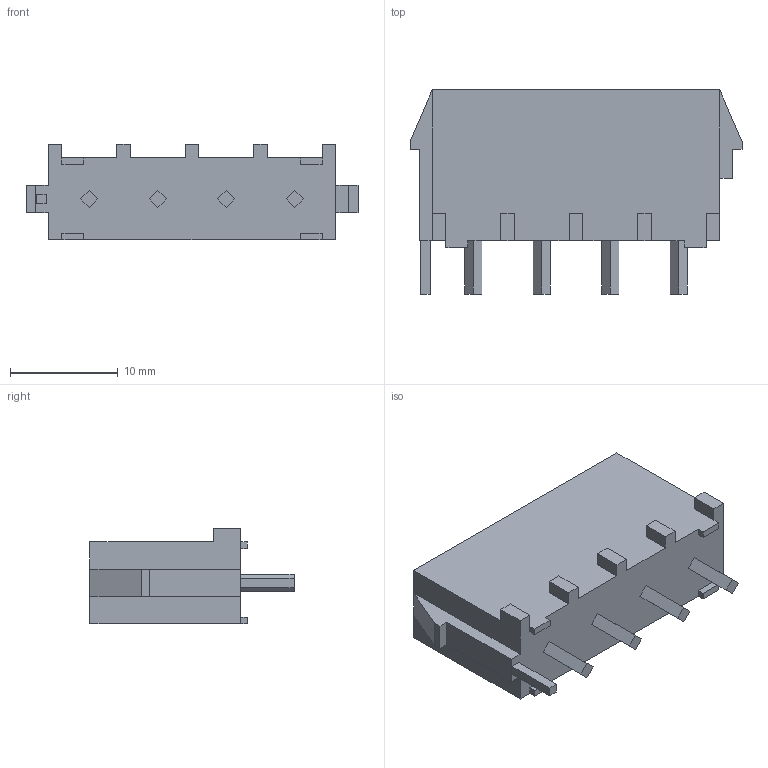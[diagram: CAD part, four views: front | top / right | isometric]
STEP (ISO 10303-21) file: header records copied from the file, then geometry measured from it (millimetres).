
FILE_DESCRIPTION((''),'2;1');
FILE_NAME('367590143','2014-12-09T',('me'),(''),'PRO/ENGINEER BY PARAMETRIC TECHNOLOGY CORPORATION, 2011490','PRO/ENGINEER BY PARAMETRIC TECHNOLOGY CORPORATION, 2011490','');
FILE_SCHEMA(('CONFIG_CONTROL_DESIGN'));
Length unit declared in the file: inch
Products named in the file (1): 367590143
Bounding box: 30.78 x 18.92 x 8.89 mm (x, y, z)
Volume: 2494.1 mm3; surface area: 2614.7 mm2
Topology: 1 solids, 1 shells, 147 faces, 404 edges, 277 vertices
Faces by surface type: plane 117, cylinder 22, bspline 8
Entity records: 4836 total; most frequent: CARTESIAN_POINT 1019, DIRECTION 768, ORIENTED_EDGE 764, EDGE_CURVE 382, VECTOR 322, LINE 322, VERTEX_POINT 250, AXIS2_PLACEMENT_3D 223
